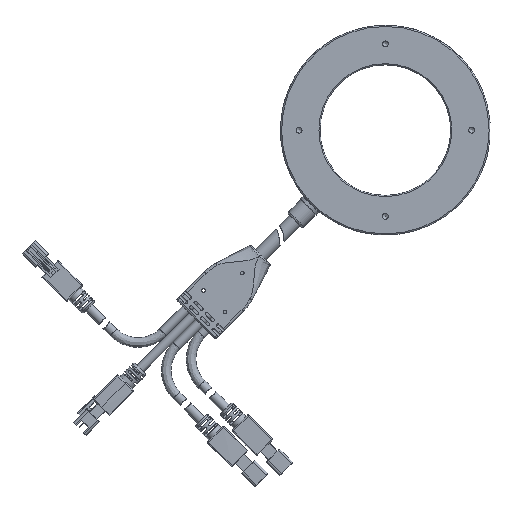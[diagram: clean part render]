
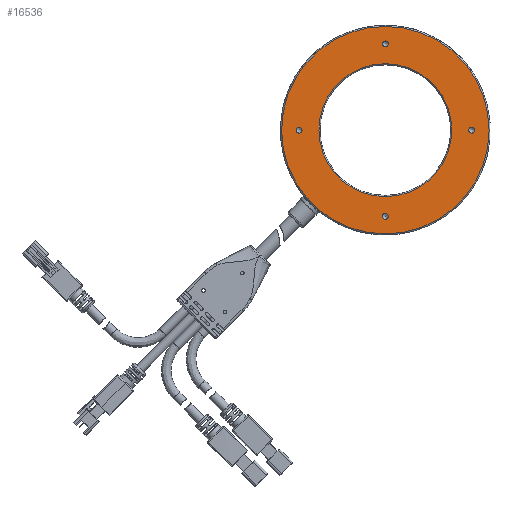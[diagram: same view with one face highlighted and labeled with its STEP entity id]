
A CAD part, front view. The second image highlights one B-rep face of the part: STEP entity #16536.
In plain terms, the highlighted planar face has unit normal (0, -1, 0).
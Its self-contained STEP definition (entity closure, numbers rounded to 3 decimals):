
#1481 = EDGE_LOOP ( 'NONE', ( #8362 ) ) ;
#2253 = VERTEX_POINT ( 'NONE', #17747 ) ;
#2595 = CARTESIAN_POINT ( 'NONE',  ( -37., 21.931, 0. ) ) ;
#3857 = CARTESIAN_POINT ( 'NONE',  ( 0., 21.931, -37. ) ) ;
#4067 = EDGE_CURVE ( 'NONE', #34127, #34127, #36582, .T. ) ;
#4501 = FACE_BOUND ( 'NONE', #1481, .T. ) ;
#4549 = VERTEX_POINT ( 'NONE', #4815 ) ;
#4563 = DIRECTION ( 'NONE',  ( 0., -1., 0. ) ) ;
#4627 = EDGE_LOOP ( 'NONE', ( #33230 ) ) ;
#4815 = CARTESIAN_POINT ( 'NONE',  ( 0., 21.931, -35.75 ) ) ;
#5587 = AXIS2_PLACEMENT_3D ( 'NONE', #32872, #7471, #24181 ) ;
#5655 = CIRCLE ( 'NONE', #14986, 1.25 ) ;
#5801 = DIRECTION ( 'NONE',  ( 0., 0., 1. ) ) ;
#7235 = CARTESIAN_POINT ( 'NONE',  ( 0., 21.931, 0. ) ) ;
#7471 = DIRECTION ( 'NONE',  ( 0., 1., 0. ) ) ;
#7602 = FACE_OUTER_BOUND ( 'NONE', #11819, .T. ) ;
#8362 = ORIENTED_EDGE ( 'NONE', *, *, #25750, .T. ) ;
#9314 = DIRECTION ( 'NONE',  ( 0., 1., 0. ) ) ;
#9747 = EDGE_LOOP ( 'NONE', ( #31759 ) ) ;
#9911 = EDGE_CURVE ( 'NONE', #10836, #10836, #5655, .T. ) ;
#10092 = DIRECTION ( 'NONE',  ( 0., 1., 0. ) ) ;
#10836 = VERTEX_POINT ( 'NONE', #27956 ) ;
#11083 = AXIS2_PLACEMENT_3D ( 'NONE', #22958, #14711, #25832 ) ;
#11558 = EDGE_CURVE ( 'NONE', #4549, #4549, #27337, .T. ) ;
#11819 = EDGE_LOOP ( 'NONE', ( #26885 ) ) ;
#12544 = CIRCLE ( 'NONE', #19722, 44.5 ) ;
#13647 = AXIS2_PLACEMENT_3D ( 'NONE', #3857, #9314, #29628 ) ;
#13826 = FACE_BOUND ( 'NONE', #4627, .T. ) ;
#14227 = CARTESIAN_POINT ( 'NONE',  ( -28., 21.931, 0. ) ) ;
#14237 = VERTEX_POINT ( 'NONE', #14574 ) ;
#14574 = CARTESIAN_POINT ( 'NONE',  ( 0., 21.931, 28.5 ) ) ;
#14711 = DIRECTION ( 'NONE',  ( 0., 1., 0. ) ) ;
#14986 = AXIS2_PLACEMENT_3D ( 'NONE', #2595, #28114, #19893 ) ;
#15130 = FACE_BOUND ( 'NONE', #9747, .T. ) ;
#15567 = VERTEX_POINT ( 'NONE', #31895 ) ;
#15602 = FACE_BOUND ( 'NONE', #33525, .T. ) ;
#15879 = CIRCLE ( 'NONE', #36650, 28.5 ) ;
#16205 = CARTESIAN_POINT ( 'NONE',  ( 37., 21.931, 1.25 ) ) ;
#16536 = ADVANCED_FACE ( 'NONE', ( #4501, #7602, #15130, #34623, #13826, #15602 ), #33453, .F. ) ;
#17747 = CARTESIAN_POINT ( 'NONE',  ( 0., 21.931, 44.5 ) ) ;
#19722 = AXIS2_PLACEMENT_3D ( 'NONE', #35891, #4563, #33291 ) ;
#19893 = DIRECTION ( 'NONE',  ( 0., 0., 1. ) ) ;
#22729 = DIRECTION ( 'NONE',  ( 0., 1., 0. ) ) ;
#22958 = CARTESIAN_POINT ( 'NONE',  ( 0., 21.931, 37. ) ) ;
#23923 = EDGE_CURVE ( 'NONE', #2253, #2253, #12544, .T. ) ;
#24181 = DIRECTION ( 'NONE',  ( 0., 0., 1. ) ) ;
#25750 = EDGE_CURVE ( 'NONE', #14237, #14237, #15879, .T. ) ;
#25832 = DIRECTION ( 'NONE',  ( 0., 0., 1. ) ) ;
#26885 = ORIENTED_EDGE ( 'NONE', *, *, #23923, .T. ) ;
#27337 = CIRCLE ( 'NONE', #13647, 1.25 ) ;
#27891 = EDGE_LOOP ( 'NONE', ( #35754 ) ) ;
#27956 = CARTESIAN_POINT ( 'NONE',  ( -37., 21.931, 1.25 ) ) ;
#28114 = DIRECTION ( 'NONE',  ( 0., 1., 0. ) ) ;
#28337 = EDGE_CURVE ( 'NONE', #15567, #15567, #31023, .T. ) ;
#28390 = ORIENTED_EDGE ( 'NONE', *, *, #4067, .T. ) ;
#29628 = DIRECTION ( 'NONE',  ( 0., 0., 1. ) ) ;
#29929 = DIRECTION ( 'NONE',  ( 0., 0., 1. ) ) ;
#31023 = CIRCLE ( 'NONE', #11083, 1.25 ) ;
#31759 = ORIENTED_EDGE ( 'NONE', *, *, #11558, .T. ) ;
#31895 = CARTESIAN_POINT ( 'NONE',  ( 0., 21.931, 38.25 ) ) ;
#32872 = CARTESIAN_POINT ( 'NONE',  ( 37., 21.931, 0. ) ) ;
#33230 = ORIENTED_EDGE ( 'NONE', *, *, #28337, .T. ) ;
#33291 = DIRECTION ( 'NONE',  ( 0., 0., 1. ) ) ;
#33453 = PLANE ( 'NONE',  #36425 ) ;
#33525 = EDGE_LOOP ( 'NONE', ( #28390 ) ) ;
#34127 = VERTEX_POINT ( 'NONE', #16205 ) ;
#34623 = FACE_BOUND ( 'NONE', #27891, .T. ) ;
#35754 = ORIENTED_EDGE ( 'NONE', *, *, #9911, .T. ) ;
#35891 = CARTESIAN_POINT ( 'NONE',  ( 0., 21.931, 0. ) ) ;
#36425 = AXIS2_PLACEMENT_3D ( 'NONE', #14227, #22729, #5801 ) ;
#36582 = CIRCLE ( 'NONE', #5587, 1.25 ) ;
#36650 = AXIS2_PLACEMENT_3D ( 'NONE', #7235, #10092, #29929 ) ;
